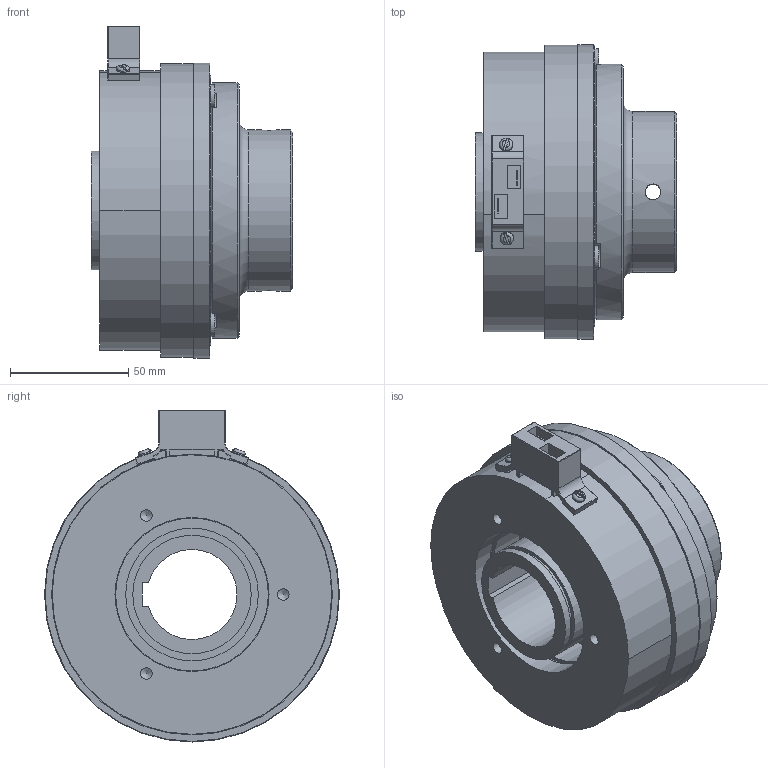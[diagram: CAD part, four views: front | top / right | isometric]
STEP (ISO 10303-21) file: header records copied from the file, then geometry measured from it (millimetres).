
FILE_DESCRIPTION(/* description */ (''),/* implementation_level */ '2;1');
FILE_NAME(/* name */ 'X:\INVENTOR\DISEGNI\08_Freni_Friz_Elettmag_Monodisco\08_26 EMSL_DF\EMSL_DF STEP\08_26_120_22 EMSL120_DF-BM-ME_S@STEP.stp',/* time_stamp */ '2018-04-24T08:57:06+02:00',/* author */ ('stefano'),/* organization */ (''),/* preprocessor_version */ 'ST-DEVELOPER v17',/* originating_system */ 'Autodesk Inventor 2018',/* authorisation */ '');
FILE_SCHEMA (('AUTOMOTIVE_DESIGN { 1 0 10303 214 3 1 1 }'));
Length unit declared in the file: millimetre
Products named in the file (1): 08_26_120_22 EMSL120_DF-BM-ME - Spina_Substitute_1
Bounding box: 85 x 124.5 x 140.13 mm (x, y, z)
Volume: 466517.1 mm3; surface area: 142724.6 mm2
Topology: 3 solids, 3 shells, 437 faces, 1179 edges, 762 vertices
Faces by surface type: cylinder 229, plane 131, torus 32, sphere 24, cone 21
Full cylindrical faces by diameter (mm): 2.2 x3, 3 x2, 4.917 x6, 5.6 x2, 6 x1, 6.1 x3, 6.647 x2, 7.5 x3, 10 x3, 10.5 x3, 12 x3, 47 x1, 50 x2, 56 x1, 64.5 x1, 65 x2, 68 x2, 77 x1, 86 x2, 104 x2, 108 x1, 110.5 x1, 118.5 x1, 124 x1, 124.5 x1
Entity records: 14636 total; most frequent: CARTESIAN_POINT 2735, DIRECTION 2628, ORIENTED_EDGE 2300, EDGE_CURVE 1150, AXIS2_PLACEMENT_3D 1092, VERTEX_POINT 762, CIRCLE 654, EDGE_LOOP 545
